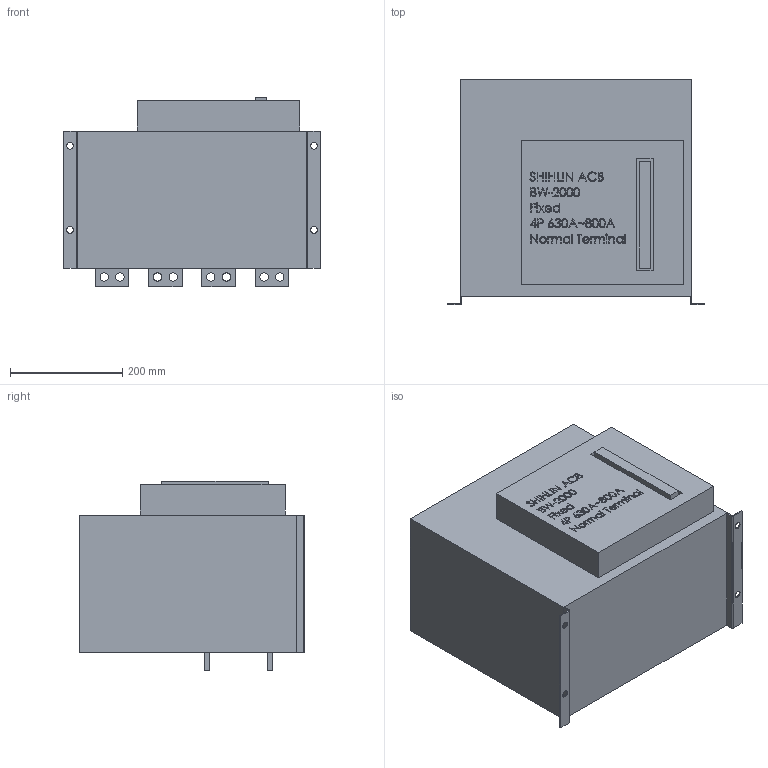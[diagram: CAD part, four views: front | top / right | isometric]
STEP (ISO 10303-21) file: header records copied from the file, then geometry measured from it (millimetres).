
FILE_DESCRIPTION (( 'STEP AP203' ), '1' );
FILE_NAME ('BW-2000-Fixed-4P-630-800A-Normal Terminal.STEP', '2020-04-09T10:56:14', ( '' ), ( '' ), 'SwSTEP 2.0', 'SolidWorks 2017', '' );
FILE_SCHEMA (( 'CONFIG_CONTROL_DESIGN' ));
Products named in the file (1): BW-2000-Fixed-4P-630-800A-Normal Terminal
Bounding box: 457 x 402 x 337 mm (x, y, z)
Volume: 43341008.7 mm3; surface area: 885550.3 mm2
Topology: 3 solids, 3 shells, 720 faces, 1890 edges, 1260 vertices
Faces by surface type: plane 424, bspline 254, cylinder 42
Entity records: 36087 total; most frequent: CARTESIAN_POINT 19805, ORIENTED_EDGE 3780, DIRECTION 2400, EDGE_CURVE 1890, VECTOR 1298, LINE 1298, VERTEX_POINT 1260, EDGE_LOOP 844
